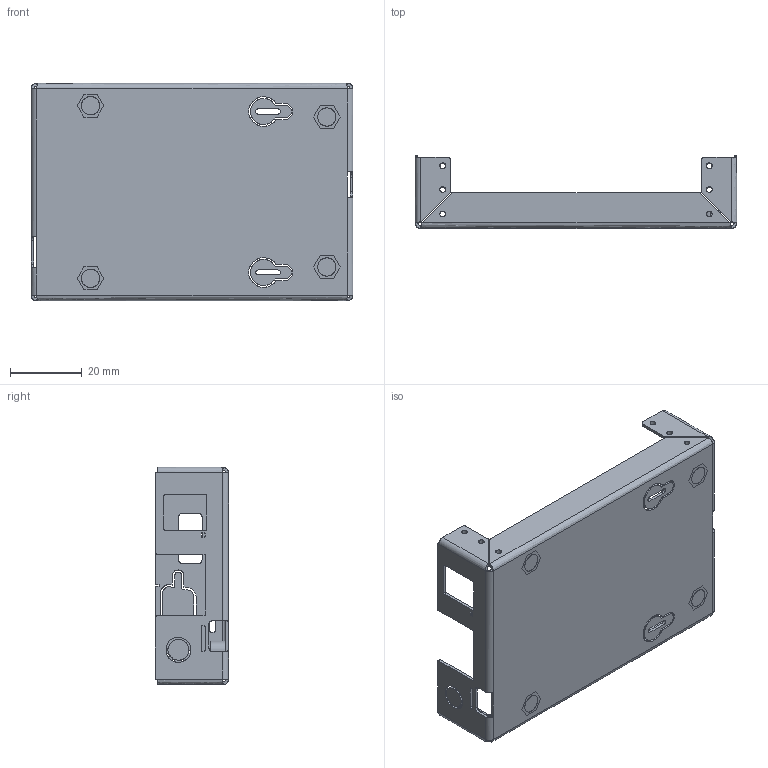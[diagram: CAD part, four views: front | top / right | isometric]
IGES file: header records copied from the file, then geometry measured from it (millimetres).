
Start section: SolidWorks IGES file using analytic representation for surfaces
Global section: file name: C:\Users\hans.brakeley\Desktop\Project Work\GIT\BB100\IGS\Chassis_Bottom_Assem.IGS; native system: SolidWorks 2013; preprocessor: SolidWorks 2013; author: hans.brakeley; date: 130710.140709; units: millimetre
Bounding box: 89.97 x 20.42 x 60.79 mm (x, y, z)
Surface area: 19518.2 mm2 (no closed solid volume)
Topology: 0 solids, 0 shells, 398 faces, 5344 edges, 5344 vertices
Faces by surface type: revolution 208, bspline 190
